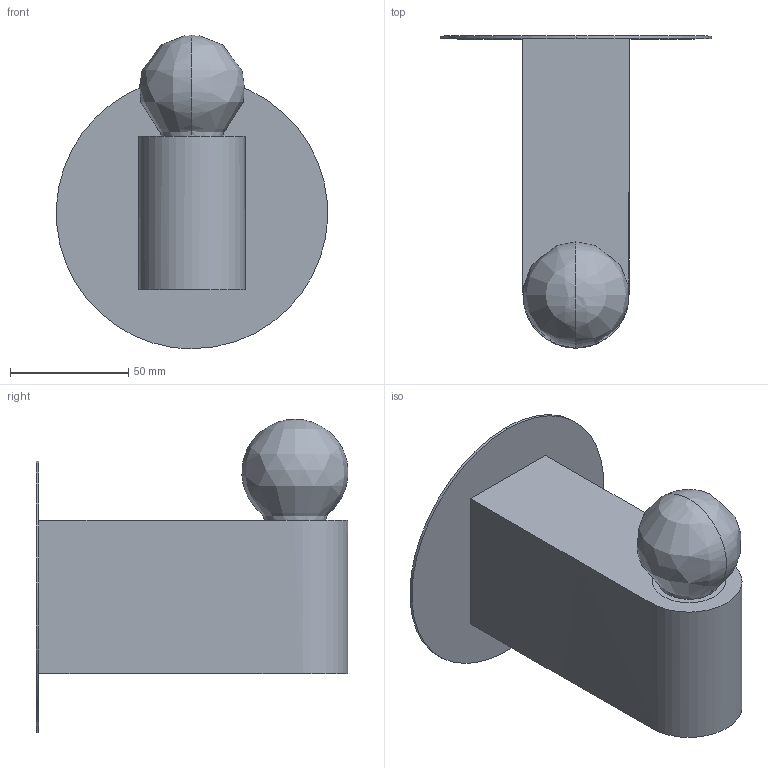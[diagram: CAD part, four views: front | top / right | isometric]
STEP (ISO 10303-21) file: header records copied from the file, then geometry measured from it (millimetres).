
FILE_DESCRIPTION(/* description */ (''),/* implementation_level */ '2;1');
FILE_NAME(/* name */ 'MA_BAC D2_120V_2017',/* time_stamp */ '2020-12-02T11:53:55+00:00',/* author */ (''),/* organization */ (''),/* preprocessor_version */ 'ST-DEVELOPER v15',/* originating_system */ '',/* authorisation */ '');
FILE_SCHEMA (('AUTOMOTIVE_DESIGN'));
Length unit declared in the file: millimetre
Products named in the file (1): Document
Bounding box: 114.86 x 132.2 x 132.84 mm (x, y, z)
Volume: 432001.4 mm3; surface area: 53788.5 mm2
Topology: 1 solids, 1 shells, 10 faces, 20 edges, 14 vertices
Faces by surface type: bspline 5, plane 5
Entity records: 528 total; most frequent: CARTESIAN_POINT 377, ORIENTED_EDGE 34, EDGE_CURVE 17, EDGE_LOOP 13, VERTEX_POINT 12, DIRECTION 11, ADVANCED_FACE 10, FACE_OUTER_BOUND 10
